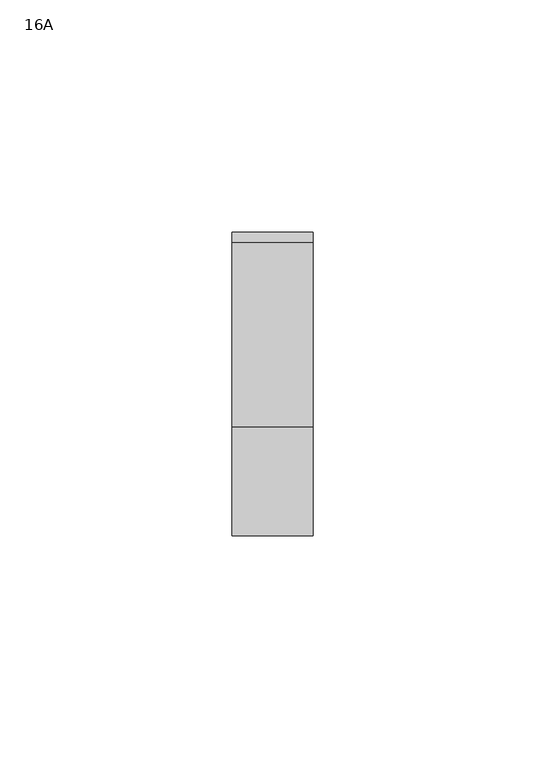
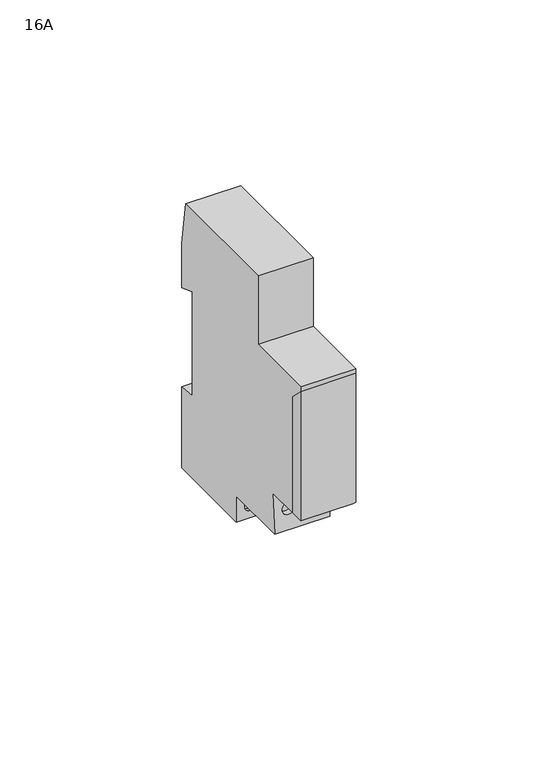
"""IFC4 building model written with IfcOpenShell, lengths in millimetres: proxy geometry, TDM_АНАЛОГОВОЕ СУТОЧНОЕ РЕЛЕ ВРЕМЕНИ СЕРИИ АР-1М : 16A."""

from ifc_helpers import new_model, si_unit, point, frame, frame_2d, origin, place, context, project, spatial, polyline, circle_curve, ellipse_curve, trimmed, segment, composite_curve, outline, extrude, faceted_brep, source, transform, mapped, element, save
from ifc_brep_helpers import plane_surface, revolved_surface, advanced_brep


def proxy_16a_368d971a(model_context):
    return source(origin(), model_context, "Body", "SolidModel", [
        extrude(outline(polyline([(-10.953984, -34.8027678), (-10.953984, -23.4465281), (12.350587, -23.4465281), (12.350587, -44.0625), (9.046016, -44.0625), (9.046016, -34.8027678), (-10.953984, -34.8027678)])), frame((-7.75, 0.0, 0.0), z_axis=(1.0, 0.0, 0.0), x_axis=(0.0, 1.0, 0.0)), (0.0, 0.0, 1.0), 15.5),
        faceted_brep([(8.75, -28.0, -23.0), (8.75, -23.5, -23.0), (8.75, -23.5, 15.875), (8.75, -28.0, 20.375), (-8.75, -28.0, -23.0), (-8.75, -28.0, 20.375), (-8.75, -23.5, 15.875), (-8.75, -23.5, -23.0), (7.75, -28.0, -23.0), (-7.75, -28.0, -23.0), (-7.75, -23.5, 15.875), (-7.75, -23.5, -22.0547261), (7.75, -23.5, -22.0547261), (7.75, -23.5, 15.875), (-7.75, -27.1318939, -22.0547261), (7.75, -27.1318939, -22.0547261), (-7.75, -27.1318939, 19.5068939), (7.75, -27.1318939, 19.5068939)], [[[0, 1, 2, 3]], [[4, 5, 6, 7]], [[7, 1, 0, 8, 9, 4]], [[2, 1, 7, 6, 10, 11, 12, 13]], [[11, 14, 15, 12]], [[14, 16, 17, 15]], [[3, 2, 13, 17, 16, 10, 6, 5]], [[0, 3, 5, 4, 9, 8]], [[11, 10, 16, 14]], [[13, 12, 15, 17]]]),
        advanced_brep(
        [(8.75, 31.7632568, 17.7057143), (8.75, 37.5, 15.5550671), (8.75, 37.5, 30.395891), (8.75, 35.3426471, 45.0), (8.75, -4.5, 45.0), (8.75, -4.5, 22.0), (8.75, -28.0, 22.0), (8.75, -28.0, 20.375), (8.75, -23.5, 15.875), (8.75, -23.5, -23.0), (8.75, -12.6655386, -23.0), (8.75, -13.5943466, -36.2825735), (8.75, 7.5, -36.2825735), (8.75, 7.5, -45.0), (8.75, 37.5, -45.0), (8.75, 37.5, -17.7961857), (8.75, 31.7632568, -17.2942857), (-8.75, 31.7632568, 17.7057143), (-8.75, 31.7632568, -17.2942857), (-8.75, 37.5, -17.7961857), (-8.75, 37.5, -45.0), (-8.75, 7.5, -45.0), (-8.75, 7.5, -36.2825735), (-8.75, -13.5943466, -36.2825735), (-8.75, -12.6655386, -23.0), (-8.75, -23.5, -23.0), (-8.75, -23.5, 15.875), (-8.75, -28.0, 20.375), (-8.75, -28.0, 22.0), (-8.75, -4.5, 22.0), (-8.75, -4.5, 45.0), (-8.75, 35.3426471, 45.0), (-8.75, 37.5, 30.395891), (-8.75, 37.5, 15.5550671), (-6.0905736, 11.0904813, -29.3803832), (-2.0905736, 11.0904813, -29.3803832), (-6.0905736, 11.0904813, -40.6499764), (-2.0905736, 11.0904813, -40.6499764), (6.0905736, 11.0904813, -29.3803832), (2.0905736, 11.0904813, -29.3803832), (6.0905736, 11.0904813, -40.6499764), (2.0905736, 11.0904813, -40.6499764), (-2.0905736, -13.1116985, -29.3803832), (-6.0905736, -13.1116985, -29.3803832), (2.0905736, -13.1116985, -29.3803832), (6.0905736, -13.1116985, -29.3803832), (-2.0905736, 7.5, -40.6499764), (-6.0905736, 7.5, -40.6499764), (2.0905736, 7.5, -40.6499764), (6.0905736, 7.5, -40.6499764)],
        [
            (0, 1),
            (1, 2),
            (2, 3),
            (3, 4),
            (4, 5),
            (5, 6),
            (6, 7),
            (7, 8),
            (8, 9),
            (9, 10),
            (10, 11),
            (11, 12),
            (12, 13),
            (13, 14),
            (14, 15),
            (15, 16),
            (16, 0),
            (17, 18),
            (18, 19),
            (19, 20),
            (20, 21),
            (21, 22),
            (22, 23),
            (23, 24),
            (24, 25),
            (25, 26),
            (26, 27),
            (27, 28),
            (28, 29),
            (29, 30),
            (30, 31),
            (31, 32),
            (32, 33),
            (33, 17),
            (34, 35, circle_curve(frame((-4.0905736, 11.0904813, -29.3803832), z_axis=(0.0, -1.0, 0.0), x_axis=(1.0, 0.0, 0.0)), 2.0)),
            (35, 34, circle_curve(frame((-4.0905736, 11.0904813, -29.3803832), z_axis=(0.0, -1.0, 0.0), x_axis=(1.0, 0.0, 0.0)), 2.0)),
            (36, 37, circle_curve(frame((-4.0905736, 11.0904813, -40.6499764), z_axis=(0.0, -1.0, 0.0), x_axis=(1.0, 0.0, 0.0)), 2.0)),
            (37, 36, circle_curve(frame((-4.0905736, 11.0904813, -40.6499764), z_axis=(0.0, -1.0, 0.0), x_axis=(1.0, 0.0, 0.0)), 2.0)),
            (38, 39, circle_curve(frame((4.0905736, 11.0904813, -29.3803832), z_axis=(0.0, -1.0, 0.0), x_axis=(-1.0, 0.0, 0.0)), 2.0)),
            (39, 38, circle_curve(frame((4.0905736, 11.0904813, -29.3803832), z_axis=(0.0, -1.0, 0.0), x_axis=(-1.0, 0.0, 0.0)), 2.0)),
            (40, 41, circle_curve(frame((4.0905736, 11.0904813, -40.6499764), z_axis=(0.0, -1.0, 0.0), x_axis=(-1.0, 0.0, 0.0)), 2.0)),
            (41, 40, circle_curve(frame((4.0905736, 11.0904813, -40.6499764), z_axis=(0.0, -1.0, 0.0), x_axis=(-1.0, 0.0, 0.0)), 2.0)),
            (1, 33),
            (32, 2),
            (31, 3),
            (30, 4),
            (29, 5),
            (28, 6),
            (27, 7),
            (26, 8),
            (25, 9),
            (16, 18),
            (17, 0),
            (24, 10),
            (23, 11),
            (42, 43, ellipse_curve(frame((-4.0905736, -13.1116985, -29.3803832), z_axis=(0.0, 0.9975640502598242, -0.06975647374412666), x_axis=(0.0, -0.06975647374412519, -0.9975640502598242)), 2.0048838, 2.0)),
            (43, 42, ellipse_curve(frame((-4.0905736, -13.1116985, -29.3803832), z_axis=(0.0, 0.9975640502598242, -0.06975647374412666), x_axis=(0.0, -0.06975647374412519, -0.9975640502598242)), 2.0048838, 2.0)),
            (44, 45, ellipse_curve(frame((4.0905736, -13.1116985, -29.3803832), z_axis=(0.0, 0.9975640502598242, -0.06975647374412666), x_axis=(0.0, -0.06975647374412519, -0.9975640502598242)), 2.0048838, 2.0)),
            (45, 44, ellipse_curve(frame((4.0905736, -13.1116985, -29.3803832), z_axis=(0.0, 0.9975640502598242, -0.06975647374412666), x_axis=(0.0, -0.06975647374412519, -0.9975640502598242)), 2.0048838, 2.0)),
            (22, 12),
            (21, 13),
            (46, 47, circle_curve(frame((-4.0905736, 7.5, -40.6499764), z_axis=(0.0, 1.0, 0.0), x_axis=(1.0, 0.0, 0.0)), 2.0)),
            (47, 46, circle_curve(frame((-4.0905736, 7.5, -40.6499764), z_axis=(0.0, 1.0, 0.0), x_axis=(1.0, 0.0, 0.0)), 2.0)),
            (48, 49, circle_curve(frame((4.0905736, 7.5, -40.6499764), z_axis=(0.0, 1.0, 0.0), x_axis=(-1.0, 0.0, 0.0)), 2.0)),
            (49, 48, circle_curve(frame((4.0905736, 7.5, -40.6499764), z_axis=(0.0, 1.0, 0.0), x_axis=(-1.0, 0.0, 0.0)), 2.0)),
            (20, 14),
            (19, 15),
            (34, 43),
            (42, 35),
            (36, 47),
            (46, 37),
            (38, 45),
            (44, 39),
            (40, 49),
            (48, 41),
        ],
        [
            plane_surface(frame((8.75, 31.7632568, 17.7057143), z_axis=(1.0, 0.0, 0.0), x_axis=(0.0, 0.9363630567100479, -0.3510330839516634))),
            plane_surface(frame((-8.75, 31.7632568, 17.7057143), z_axis=(-1.0, 0.0, 0.0), x_axis=(0.0, -0.9363630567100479, 0.3510330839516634))),
            plane_surface(frame((-2.0905736, 11.0904813, -29.3803832), z_axis=(0.0, -1.0, 0.0), x_axis=(0.0, 0.0, -1.0))),
            plane_surface(frame((8.75, 37.5, 15.5550671), z_axis=(0.0, 1.0, 0.0), x_axis=(-1.0, 0.0, 0.0))),
            plane_surface(frame((8.75, 37.5, 30.395891), z_axis=(0.0, 0.989264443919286, 0.14613644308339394), x_axis=(-1.0, 0.0, 0.0))),
            plane_surface(frame((8.75, 35.3426471, 45.0), z_axis=(0.0, 0.0, 1.0), x_axis=(-1.0, 0.0, 0.0))),
            plane_surface(frame((8.75, -4.5, 45.0), z_axis=(0.0, -1.0, 0.0), x_axis=(-1.0, 0.0, 0.0))),
            plane_surface(frame((8.75, -4.5, 22.0), z_axis=(0.0, 0.0, 1.0), x_axis=(-1.0, 0.0, 0.0))),
            plane_surface(frame((8.75, -28.0, 22.0), z_axis=(0.0, -1.0, 0.0), x_axis=(-1.0, 0.0, 0.0))),
            plane_surface(frame((8.75, -28.0, 20.375), z_axis=(0.0, -0.7071067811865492, -0.7071067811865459), x_axis=(-1.0, 0.0, 0.0))),
            plane_surface(frame((8.75, -23.5, 15.875), z_axis=(0.0, -1.0, 0.0), x_axis=(-1.0, 0.0, 0.0))),
            plane_surface(frame((8.75, 31.7632568, -17.2942857), z_axis=(0.0, 1.0, 0.0), x_axis=(-1.0, 0.0, 0.0))),
            plane_surface(frame((8.75, 31.7632568, 17.7057143), z_axis=(0.0, -0.3510330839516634, -0.9363630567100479), x_axis=(-1.0, 0.0, 0.0))),
            plane_surface(frame((8.75, -23.5, -23.0), z_axis=(0.0, 0.0, -1.0), x_axis=(-1.0, 0.0, 0.0))),
            plane_surface(frame((8.75, -12.6655386, -23.0), z_axis=(0.0, -0.9975640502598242, 0.06975647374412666), x_axis=(-1.0, 0.0, 0.0))),
            plane_surface(frame((8.75, -13.5943466, -36.2825735), z_axis=(0.0, 0.0, -1.0), x_axis=(-1.0, 0.0, 0.0))),
            plane_surface(frame((8.75, 7.5, -36.2825735), z_axis=(0.0, -1.0, 0.0), x_axis=(-1.0, 0.0, 0.0))),
            plane_surface(frame((8.75, 7.5, -45.0), z_axis=(0.0, 0.0, -1.0), x_axis=(-1.0, 0.0, 0.0))),
            plane_surface(frame((8.75, 37.5, -45.0), z_axis=(0.0, 1.0, 0.0), x_axis=(-1.0, 0.0, 0.0))),
            plane_surface(frame((8.75, 37.5, -17.7961857), z_axis=(0.0, 0.08715574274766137, 0.9961946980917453), x_axis=(-1.0, 0.0, 0.0))),
            revolved_surface(polyline([(-2.0905736, -13.25155212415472, -29.3803832), (-2.0905736, 11.0904813, -29.3803832)]), (-4.0905736, 11.0904813, -29.3803832), (0.0, -1.0, 0.0)),
            revolved_surface(polyline([(-2.0905736, 7.5, -40.6499764), (-2.0905736, 11.0904813, -40.6499764)]), (-4.0905736, 0.0, -40.6499764), (0.0, -1.0, 0.0)),
            revolved_surface(polyline([(2.0905736, -13.25155212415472, -29.3803832), (2.0905736, 11.0904813, -29.3803832)]), (4.0905736, 0.0, -29.3803832), (0.0, -1.0, 0.0)),
            revolved_surface(polyline([(2.0905736, 7.5, -40.6499764), (2.0905736, 11.0904813, -40.6499764)]), (4.0905736, 0.0, -40.6499764), (0.0, -1.0, 0.0)),
        ],
        [
            (0, [[1, 2, 3, 4, 5, 6, 7, 8, 9, 10, 11, 12, 13, 14, 15, 16, 17]]),
            (1, [[18, 19, 20, 21, 22, 23, 24, 25, 26, 27, 28, 29, 30, 31, 32, 33, 34]]),
            (2, [[35, 36]]),
            (2, [[37, 38]]),
            (2, [[39, 40]]),
            (2, [[41, 42]]),
            (3, [[-2, 43, -33, 44]]),
            (4, [[-3, -44, -32, 45]]),
            (5, [[-4, -45, -31, 46]]),
            (6, [[-5, -46, -30, 47]]),
            (7, [[-6, -47, -29, 48]]),
            (8, [[-7, -48, -28, 49]]),
            (9, [[-8, -49, -27, 50]]),
            (10, [[-9, -50, -26, 51]]),
            (11, [[-17, 52, -18, 53]]),
            (12, [[-1, -53, -34, -43]]),
            (13, [[-10, -51, -25, 54]]),
            (14, [[-11, -54, -24, 55], [56, 57], [58, 59]]),
            (15, [[-12, -55, -23, 60]]),
            (16, [[-13, -60, -22, 61], [62, 63], [64, 65]]),
            (17, [[-14, -61, -21, 66]]),
            (18, [[-15, -66, -20, 67]]),
            (19, [[-16, -67, -19, -52]]),
            (20, [[-35, 68, -56, 69]]),
            (20, [[-36, -69, -57, -68]]),
            (21, [[-37, 70, -62, 71]]),
            (21, [[-38, -71, -63, -70]]),
            (22, [[-39, 72, -58, 73]]),
            (22, [[-40, -73, -59, -72]]),
            (23, [[-41, 74, -64, 75]]),
            (23, [[-42, -75, -65, -74]]),
        ],
    ),
        extrude(outline(composite_curve([segment(trimmed(circle_curve(frame_2d((36.1552145, -4.620239)), 61.7447513), [point((-23.8461384, -19.1891087))], [point((-23.9770884, 9.3983367))], False, "CARTESIAN"), True, "CONTINUOUS"), segment(polyline([(-23.9770884, 9.3983367), (-23.03125, 9.3983367), (-23.03125, -19.1891087), (-23.8461384, -19.1891087)]), True, "CONTINUOUS")], self_intersect=False)), frame((-3.0, 0.0, 0.0), z_axis=(1.0, 0.0, 0.0), x_axis=(0.0, 1.0, 0.0)), (0.0, 0.0, 1.0), 6.0),
        extrude(outline(polyline([(-10.953984, -34.8027678), (-10.953984, -23.4465281), (12.350587, -23.4465281), (12.350587, -44.0625), (9.046016, -44.0625), (9.046016, -34.8027678), (-10.953984, -34.8027678)])), frame((-7.75, 0.0, 0.0), z_axis=(1.0, 0.0, 0.0), x_axis=(0.0, 1.0, 0.0)), (0.0, 0.0, 1.0), 15.5),
        faceted_brep([(8.75, -28.0, -23.0), (8.75, -23.5, -23.0), (8.75, -23.5, 15.875), (8.75, -28.0, 20.375), (-8.75, -28.0, -23.0), (-8.75, -28.0, 20.375), (-8.75, -23.5, 15.875), (-8.75, -23.5, -23.0), (7.75, -28.0, -23.0), (-7.75, -28.0, -23.0), (-7.75, -23.5, 15.875), (-7.75, -23.5, -22.0547261), (7.75, -23.5, -22.0547261), (7.75, -23.5, 15.875), (-7.75, -27.1318939, -22.0547261), (7.75, -27.1318939, -22.0547261), (-7.75, -27.1318939, 19.5068939), (7.75, -27.1318939, 19.5068939)], [[[0, 1, 2, 3]], [[4, 5, 6, 7]], [[7, 1, 0, 8, 9, 4]], [[2, 1, 7, 6, 10, 11, 12, 13]], [[11, 14, 15, 12]], [[14, 16, 17, 15]], [[3, 2, 13, 17, 16, 10, 6, 5]], [[0, 3, 5, 4, 9, 8]], [[11, 10, 16, 14]], [[13, 12, 15, 17]]]),
    ])


if __name__ == "__main__":
    model = new_model("IFC4")
    model_context = context("Model", 3, world=origin())
    ifc_project = project(units=[si_unit("LENGTHUNIT", "METRE", prefix="MILLI")], contexts=[model_context])
    site = spatial("IfcSite", under=ifc_project)
    building = spatial("IfcBuilding", under=site)
    placement = place(None, origin())
    proxy_16a_shape = proxy_16a_368d971a(model_context)
    element("IfcBuildingElementProxy", 1, Name="TDM_АНАЛОГОВОЕ СУТОЧНОЕ РЕЛЕ ВРЕМЕНИ СЕРИИ АР-1М : 16A", ObjectType="TDM_АНАЛОГОВОЕ СУТОЧНОЕ РЕЛЕ ВРЕМЕНИ СЕРИИ АР-1М : 16A", at=placement, inside=building, context=model_context, shape_type="MappedRepresentation", body=[
        mapped(proxy_16a_shape, transform((0.0, 0.0, 0.0), x_axis=(1.0, 0.0, 0.0), y_axis=(0.0, 1.0, 0.0), z_axis=(0.0, 0.0, 1.0))),
    ])
    save(model, "model.ifc")
